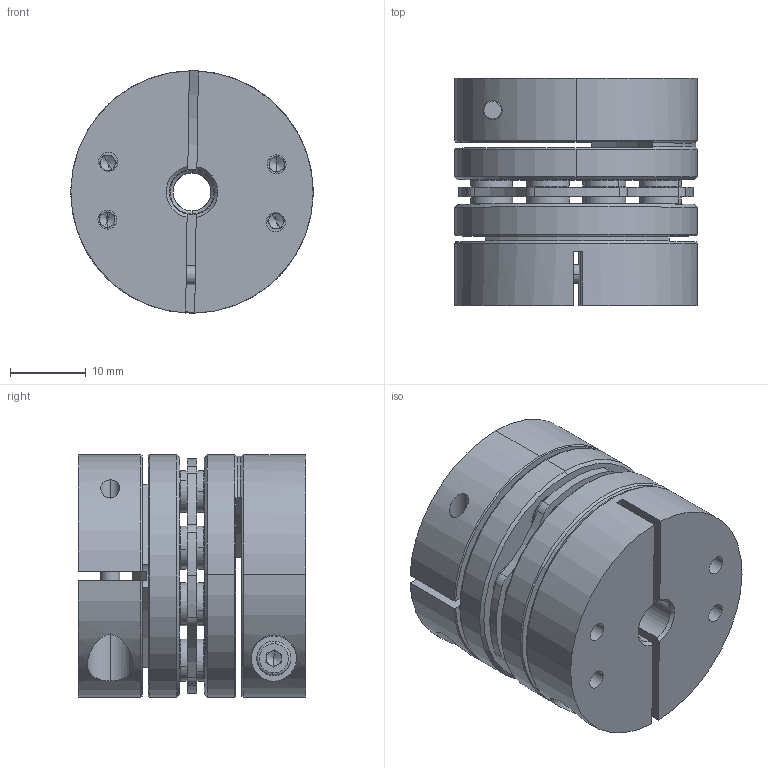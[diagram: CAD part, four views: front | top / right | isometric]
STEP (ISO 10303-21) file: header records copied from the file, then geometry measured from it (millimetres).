
FILE_DESCRIPTION (( 'STEP AP203' ), '1' );
FILE_NAME ('LDG-32-B1-5-6.STEP', '2021-10-28T05:01:44', ( '' ), ( '' ), 'SwSTEP 2.0', 'SolidWorks 2018', '' );
FILE_SCHEMA (( 'CONFIG_CONTROL_DESIGN' ));
Length unit declared in the file: millimetre
Products named in the file (2): LDG-32-B1-5-6; 錨璃5^LDG-32蚾饜芞1
Assembly tree (1 placements, depth 2):
  LDG-32-B1-5-6
    錨璃5^LDG-32蚾饜芞1
Bounding box: 32 x 30 x 32 mm (x, y, z)
Volume: 19160.6 mm3; surface area: 13418.7 mm2
Topology: 1 solids, 11 shells, 795 faces, 1967 edges, 1216 vertices
Faces by surface type: cylinder 301, plane 244, cone 230, torus 20
Entity records: 24195 total; most frequent: CARTESIAN_POINT 4476, DIRECTION 4465, ORIENTED_EDGE 3878, EDGE_CURVE 1939, AXIS2_PLACEMENT_3D 1819, VERTEX_POINT 1216, CIRCLE 1020, EDGE_LOOP 939
